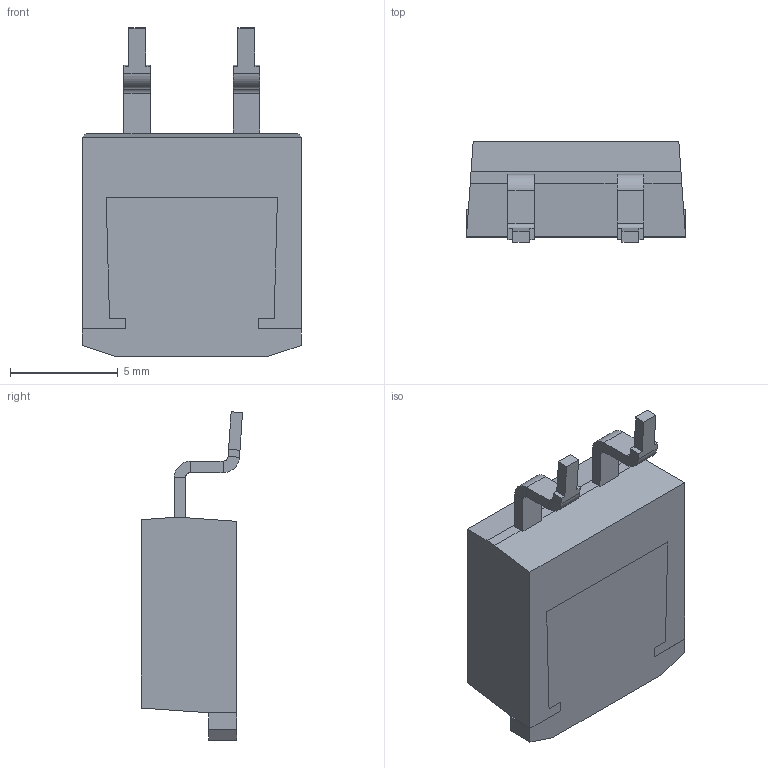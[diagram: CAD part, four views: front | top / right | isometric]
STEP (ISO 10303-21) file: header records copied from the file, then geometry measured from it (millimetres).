
FILE_DESCRIPTION (( 'STEP AP214' ), '1' );
FILE_NAME ('G Package.STEP', '2022-07-20T12:37:19', ( '' ), ( '' ), 'SwSTEP 2.0', 'SolidWorks 2021', '' );
FILE_SCHEMA (( 'AUTOMOTIVE_DESIGN' ));
Length unit declared in the file: millimetre
Products named in the file (3): G Package; TO-263-2L_EMC; TO-263-2L
Assembly tree (2 placements, depth 2):
  G Package
    TO-263-2L
    TO-263-2L_EMC
Bounding box: 10.18 x 4.7 x 15.26 mm (x, y, z)
Volume: 415 mm3; surface area: 655.2 mm2
Topology: 3 solids, 3 shells, 137 faces, 356 edges, 224 vertices
Faces by surface type: plane 105, cylinder 32
Entity records: 4233 total; most frequent: CARTESIAN_POINT 758, ORIENTED_EDGE 712, DIRECTION 680, EDGE_CURVE 356, LINE 292, VECTOR 292, VERTEX_POINT 224, AXIS2_PLACEMENT_3D 194
